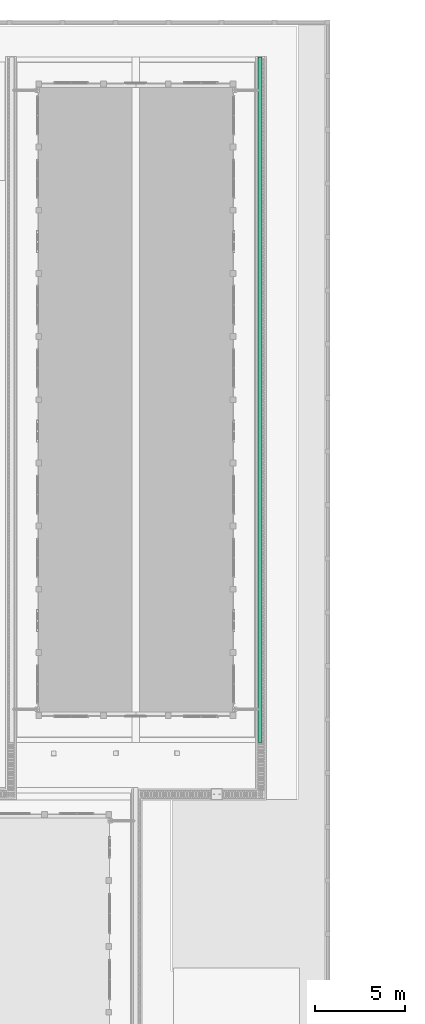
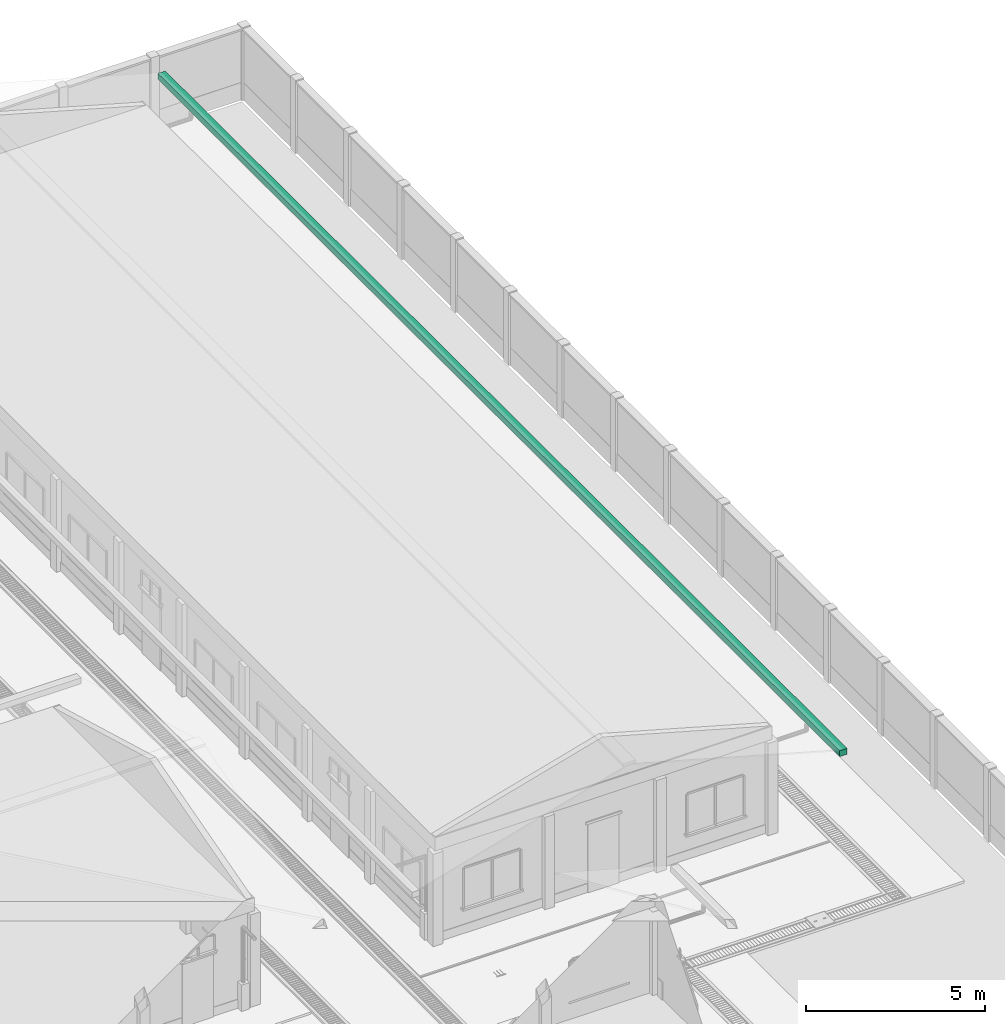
# One storey, part 107 of 151: 1 flow segment.
"""IFC2X3 building model written with IfcOpenShell, lengths in metres."""

from ifc_helpers import new_model, si_unit, origin, origin_with_axes, place, context, subcontext, project, spatial, faceted_brep, element, save


model = new_model("IFC2X3")

# Units and contexts
model_context = context("Model", 3, precision=1e-05, world=origin_with_axes())
body_context = subcontext(model_context, "Body", "Model", "MODEL_VIEW")
ifc_project = project(units=[si_unit("LENGTHUNIT", "METRE"), si_unit("AREAUNIT", "SQUARE_METRE"), si_unit("VOLUMEUNIT", "CUBIC_METRE"), si_unit("PLANEANGLEUNIT", "RADIAN")], contexts=[model_context])

# Site, building, storey
site_placement = place(None, origin_with_axes())
site = spatial("IfcSite", under=ifc_project, at=site_placement, Name="Predio Los Mangos - Morales, San Martín", CompositionType="ELEMENT")
building_placement = place(site_placement, origin())
building = spatial("IfcBuilding", under=site, at=building_placement, Name="Hogar de Refugio Temporal", CompositionType="ELEMENT")
storey_placement = place(building_placement, origin())
storey = spatial("IfcBuildingStorey", under=building, at=storey_placement, Name="NIVEL 1 (NPT +0.00)", CompositionType="ELEMENT", Elevation=0.0)

# Flow segment
flow_segment_placement = place(storey_placement, origin())
element("IfcFlowSegment", 1, at=flow_segment_placement, inside=storey, Name="E-07_canaleta", ObjectType="Canaleta", context=body_context, shape_type="Brep", body=[
    faceted_brep([(67.88, 91.2, 3.13), (67.88, 129.3, 3.13), (68.12, 129.3, 3.13), (68.12, 91.2, 3.13), (67.88, 91.2, 3.33), (68.12, 91.2, 3.33), (68.12, 129.3, 3.33), (67.88, 129.3, 3.33)], [[[0, 1, 2, 3]], [[4, 5, 6, 7]], [[0, 3, 5, 4]], [[3, 2, 6, 5]], [[2, 1, 7, 6]], [[1, 0, 4, 7]]]),
])

save(model, "model.ifc")
